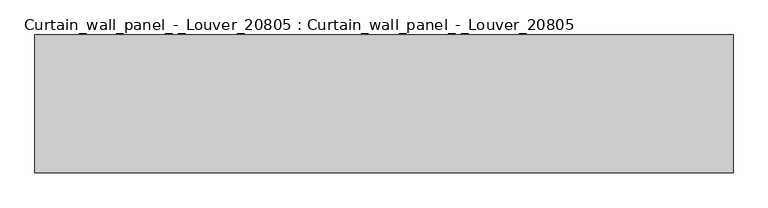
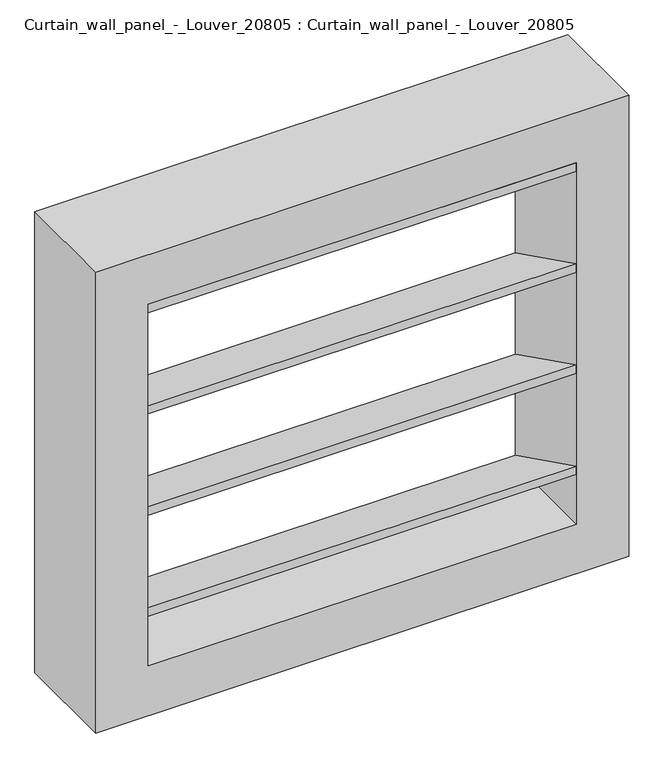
"""IFC4 building model written with IfcOpenShell, lengths in millimetres: plate geometry, Curtain_wall_panel_-_Louver_20805 : Curtain_wall_panel_-_Louver_20805."""

from ifc_helpers import new_model, si_unit, frame, origin, place, context, project, spatial, polyline, outline, extrude, source, transform, mapped, element, save


def curtain_wall_panel_louver_20805_curtain_wall_panel_louver_ac1eef51(model_context):
    return source(origin(), model_context, "Body", "SweptSolid", [
        extrude(outline(polyline([(-200.0, 605.2950441), (-200.0, 622.044977), (0.0, 522.6599789), (0.0, 505.910046), (-200.0, 605.2950441)])), frame((-406.2500001, 0.0, 0.0), z_axis=(1.0, 0.0, 0.0), x_axis=(0.0, 1.0, 0.0)), (0.0, 0.0, 1.0), 812.5000001),
        extrude(outline(polyline([(-200.0, 402.3400211), (-200.0, 419.089954), (0.0, 319.7049559), (0.0, 302.955023), (-200.0, 402.3400211)])), frame((-406.2500001, 0.0, 0.0), z_axis=(1.0, 0.0, 0.0), x_axis=(0.0, 1.0, 0.0)), (0.0, 0.0, 1.0), 812.5000001),
        extrude(outline(polyline([(-200.0, 808.2500672), (-200.0, 825.0), (0.0, 725.6150019), (0.0, 708.8650691), (-200.0, 808.2500672)])), frame((-406.2500001, 0.0, 0.0), z_axis=(1.0, 0.0, 0.0), x_axis=(0.0, 1.0, 0.0)), (0.0, 0.0, 1.0), 812.5000001),
        extrude(outline(polyline([(-200.0, 199.3849981), (-200.0, 216.1349309), (0.0, 116.7499328), (0.0, 100.0), (-200.0, 199.3849981)])), frame((-406.2500001, 0.0, 0.0), z_axis=(1.0, 0.0, 0.0), x_axis=(0.0, 1.0, 0.0)), (0.0, 0.0, 1.0), 812.5000001),
        extrude(outline(polyline([(925.0, -506.2500001), (0.0, -506.2500001), (0.0, 506.2500001), (925.0, 506.2500001), (925.0, -506.2500001)]), holes=[polyline([(825.0, -406.2500001), (825.0, 406.2500001), (100.0, 406.2500001), (100.0, -406.2500001), (825.0, -406.2500001)])]), frame((0.0, -200.0, 0.0), z_axis=(0.0, 1.0, 0.0), x_axis=(0.0, 0.0, 1.0)), (0.0, 0.0, 1.0), 200.0),
    ])


if __name__ == "__main__":
    model = new_model("IFC4")
    model_context = context("Model", 3, world=origin())
    ifc_project = project(units=[si_unit("LENGTHUNIT", "METRE", prefix="MILLI")], contexts=[model_context])
    site = spatial("IfcSite", under=ifc_project)
    building = spatial("IfcBuilding", under=site)
    placement = place(None, origin())
    curtain_wall_panel_louver_20805_curtain_wall_panel_louver_shape = curtain_wall_panel_louver_20805_curtain_wall_panel_louver_ac1eef51(model_context)
    element("IfcPlate", 1, ObjectType="Curtain_wall_panel_-_Louver_20805 : Curtain_wall_panel_-_Louver_20805", at=placement, inside=building, context=model_context, shape_type="MappedRepresentation", body=[
        mapped(curtain_wall_panel_louver_20805_curtain_wall_panel_louver_shape, transform((0.0, 0.0, 0.0), x_axis=(1.0, 0.0, 0.0), y_axis=(0.0, 1.0, 0.0), z_axis=(0.0, 0.0, 1.0))),
    ])
    save(model, "model.ifc")
